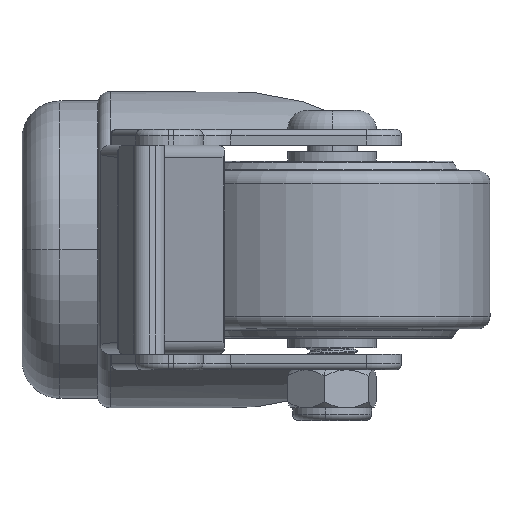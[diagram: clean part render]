
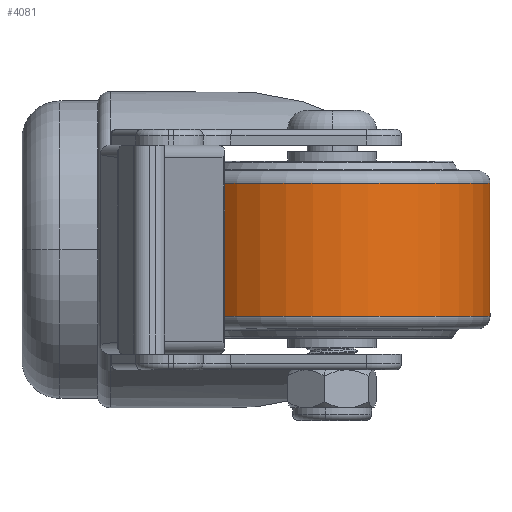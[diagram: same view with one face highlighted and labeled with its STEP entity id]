
A CAD part, left-side view. The second image highlights one B-rep face of the part: STEP entity #4081.
In plain terms, the highlighted cylindrical face has radius 25 mm (diameter 50 mm), a partial arc.
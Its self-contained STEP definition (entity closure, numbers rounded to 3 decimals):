
#155 = AXIS2_PLACEMENT_3D ( 'NONE', #20284, #8237, #3985 ) ;
#1128 = CARTESIAN_POINT ( 'NONE',  ( 0., -10.5, -25. ) ) ;
#1132 = FACE_OUTER_BOUND ( 'NONE', #25877, .T. ) ;
#1409 = DIRECTION ( 'NONE',  ( 0., -1., 0. ) ) ;
#3985 = DIRECTION ( 'NONE',  ( 0., 0., -1. ) ) ;
#4081 = ADVANCED_FACE ( 'NONE', ( #1132 ), #11295, .T. ) ;
#5196 = EDGE_CURVE ( 'NONE', #23013, #25858, #6997, .T. ) ;
#6868 = CARTESIAN_POINT ( 'NONE',  ( 0., 0., -25. ) ) ;
#6997 = LINE ( 'NONE', #6868, #16672 ) ;
#7222 = ORIENTED_EDGE ( 'NONE', *, *, #15434, .T. ) ;
#8200 = CIRCLE ( 'NONE', #22621, 25. ) ;
#8237 = DIRECTION ( 'NONE',  ( 0., 1., 0. ) ) ;
#9128 = ORIENTED_EDGE ( 'NONE', *, *, #13955, .T. ) ;
#10849 = DIRECTION ( 'NONE',  ( 0., -1., 0. ) ) ;
#11295 = CYLINDRICAL_SURFACE ( 'NONE', #21493, 25. ) ;
#13189 = EDGE_CURVE ( 'NONE', #20988, #15220, #15334, .T. ) ;
#13955 = EDGE_CURVE ( 'NONE', #20988, #23013, #8200, .T. ) ;
#14668 = CARTESIAN_POINT ( 'NONE',  ( 0., 10.5, 25. ) ) ;
#15220 = VERTEX_POINT ( 'NONE', #19080 ) ;
#15334 = LINE ( 'NONE', #23694, #23578 ) ;
#15337 = ORIENTED_EDGE ( 'NONE', *, *, #5196, .T. ) ;
#15434 = EDGE_CURVE ( 'NONE', #25858, #15220, #22931, .T. ) ;
#16199 = DIRECTION ( 'NONE',  ( 0., 0., -1. ) ) ;
#16672 = VECTOR ( 'NONE', #10849, 1000. ) ;
#17527 = DIRECTION ( 'NONE',  ( 0., -1., 0. ) ) ;
#19080 = CARTESIAN_POINT ( 'NONE',  ( 0., -10.5, 25. ) ) ;
#20284 = CARTESIAN_POINT ( 'NONE',  ( 0., -10.5, 0. ) ) ;
#20326 = CARTESIAN_POINT ( 'NONE',  ( 0., 0., 0. ) ) ;
#20988 = VERTEX_POINT ( 'NONE', #14668 ) ;
#21493 = AXIS2_PLACEMENT_3D ( 'NONE', #20326, #1409, #16199 ) ;
#22520 = DIRECTION ( 'NONE',  ( 0., 0., 1. ) ) ;
#22621 = AXIS2_PLACEMENT_3D ( 'NONE', #26900, #26484, #22520 ) ;
#22931 = CIRCLE ( 'NONE', #155, 25. ) ;
#23013 = VERTEX_POINT ( 'NONE', #23495 ) ;
#23495 = CARTESIAN_POINT ( 'NONE',  ( 0., 10.5, -25. ) ) ;
#23578 = VECTOR ( 'NONE', #17527, 1000. ) ;
#23694 = CARTESIAN_POINT ( 'NONE',  ( 0., 0., 25. ) ) ;
#25681 = ORIENTED_EDGE ( 'NONE', *, *, #13189, .F. ) ;
#25858 = VERTEX_POINT ( 'NONE', #1128 ) ;
#25877 = EDGE_LOOP ( 'NONE', ( #25681, #9128, #15337, #7222 ) ) ;
#26484 = DIRECTION ( 'NONE',  ( 0., -1., 0. ) ) ;
#26900 = CARTESIAN_POINT ( 'NONE',  ( 0., 10.5, 0. ) ) ;
